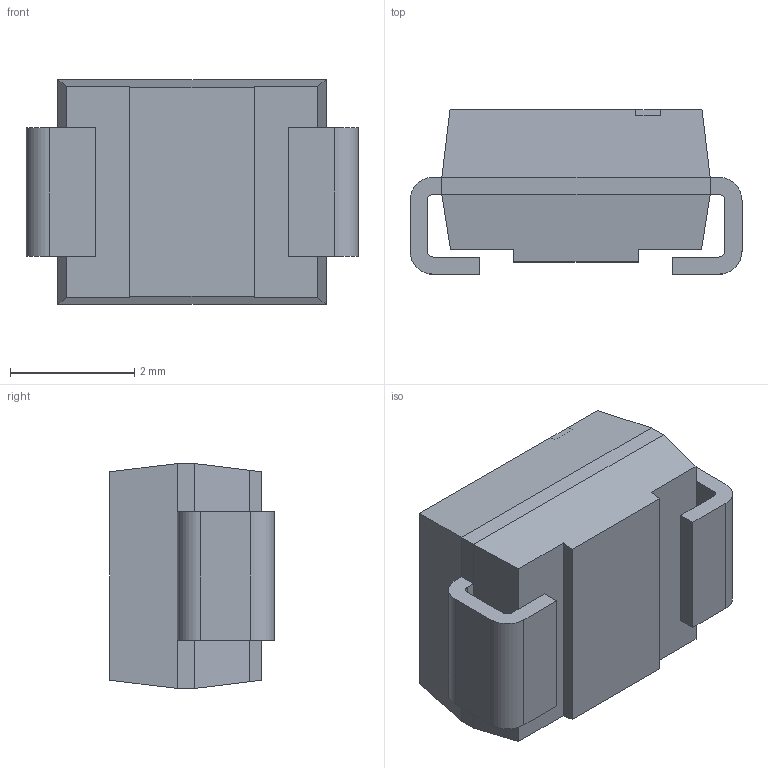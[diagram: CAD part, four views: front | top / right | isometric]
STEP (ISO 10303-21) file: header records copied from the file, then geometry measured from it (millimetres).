
FILE_DESCRIPTION (( 'STEP AP214' ), '1' );
FILE_NAME ('SMLVT3V3.STEP', '2024-01-19T11:33:03', ( 'LENOVO' ), ( '' ), 'SwSTEP 2.0', 'SolidWorks 2021', '' );
FILE_SCHEMA (( 'AUTOMOTIVE_DESIGN' ));
Length unit declared in the file: millimetre
Products named in the file (1): SMLVT3V3
Bounding box: 5.35 x 2.65 x 3.62 mm (x, y, z)
Volume: 37.4 mm3; surface area: 93.9 mm2
Topology: 4 solids, 4 shells, 58 faces, 138 edges, 88 vertices
Faces by surface type: plane 50, cylinder 8
Entity records: 1703 total; most frequent: CARTESIAN_POINT 285, ORIENTED_EDGE 276, DIRECTION 272, EDGE_CURVE 138, LINE 122, VECTOR 122, VERTEX_POINT 88, AXIS2_PLACEMENT_3D 75
